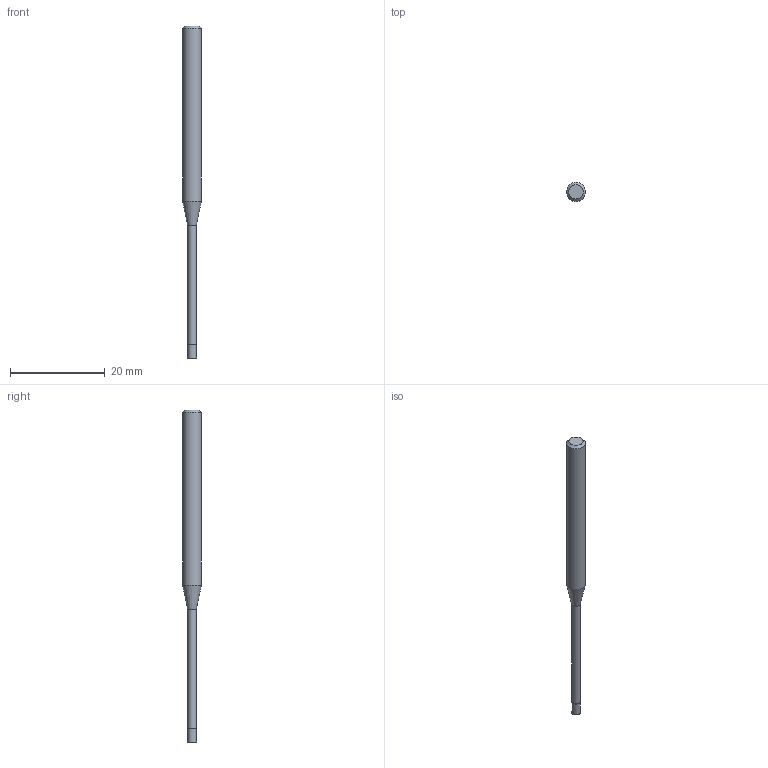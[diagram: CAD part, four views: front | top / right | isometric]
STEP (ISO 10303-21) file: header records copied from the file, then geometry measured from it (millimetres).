
FILE_DESCRIPTION((''),'2;1');
FILE_NAME('C:\Users\nsx150\AppData\Local\Temp\Mastercam 2021\17T8Q8S9EB\TEMP.step','2021-04-21T16:15:35',(''),(''),'STEP Write','Mastercam 2021 ... CNC Software, Inc.','');
FILE_SCHEMA(('AUTOMOTIVE_DESIGN'));
Length unit declared in the file: millimetre
Products named in the file (1): None
Bounding box: 4 x 4 x 70 mm (x, y, z)
Volume: 573 mm3; surface area: 690.9 mm2
Topology: 2 solids, 2 shells, 9 faces, 12 edges, 7 vertices
Faces by surface type: plane 4, cylinder 3, cone 2
Full cylindrical faces by diameter (mm): 1.84 x1, 1.9 x1, 4 x1
Entity records: 211 total; most frequent: DIRECTION 36, CARTESIAN_POINT 25, AXIS2_PLACEMENT_3D 18, ORIENTED_EDGE 14, EDGE_LOOP 14, STYLED_ITEM 12, ADVANCED_FACE 9, FACE_BOUND 8
